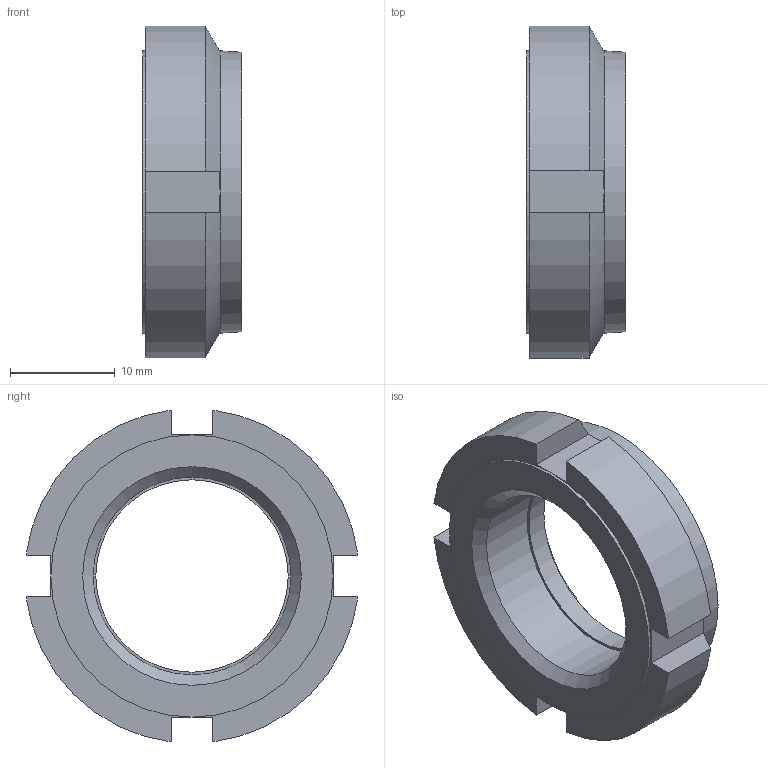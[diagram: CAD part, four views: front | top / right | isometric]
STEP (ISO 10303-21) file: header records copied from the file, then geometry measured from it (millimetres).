
FILE_DESCRIPTION( ( 'STEP AP203' ), '1' );
FILE_NAME( 'C:/Temp/Ganter_Step_05_03_2020/data/3_2/gn1804_1/Slotted locknut self-locking GN 1804.1-M20x1.stp', '2020-03-13T05:25:14', ( 'License CC BY-ND 4.0' ), ( 'CADENAS' ), ' ', 'PARTsolutions', ' ' );
FILE_SCHEMA( ( 'CONFIG_CONTROL_DESIGN' ) );
Length unit declared in the file: millimetre
Products named in the file (1): _Slotted locknut self-locking GN 1804.1-M20x1
Bounding box: 9.5 x 31.75 x 31.75 mm (x, y, z)
Volume: 3922.9 mm3; surface area: 2467.3 mm2
Topology: 1 solids, 1 shells, 34 faces, 79 edges, 49 vertices
Faces by surface type: plane 20, cylinder 8, cone 6
Full cylindrical faces by diameter (mm): 18.4 x1, 18.917 x1, 21 x1, 27 x1
Entity records: 994 total; most frequent: CARTESIAN_POINT 205, DIRECTION 152, ORIENTED_EDGE 146, EDGE_CURVE 73, AXIS2_PLACEMENT_3D 60, VERTEX_POINT 49, EDGE_LOOP 44, FACE_OUTER_BOUND 38
